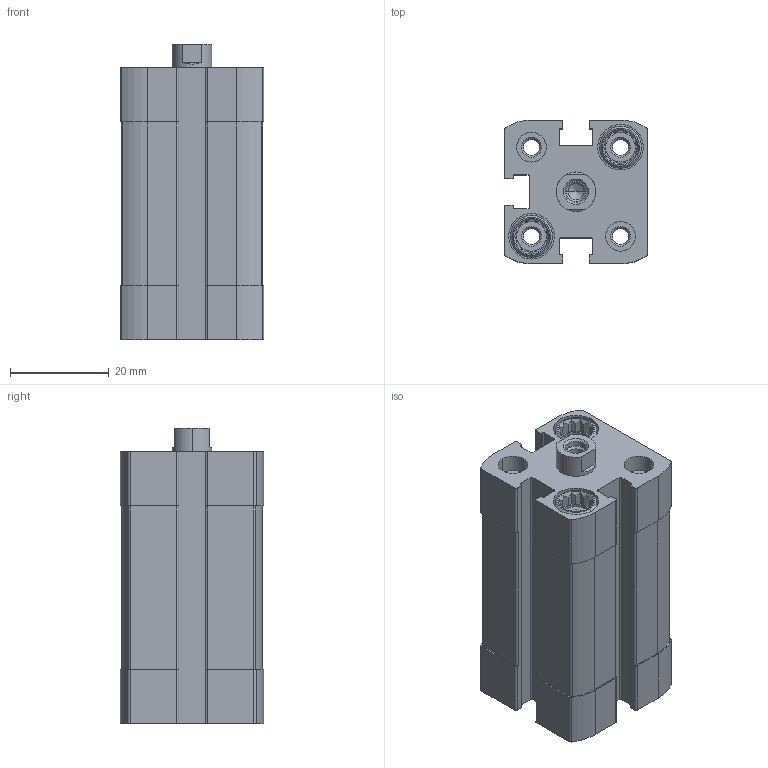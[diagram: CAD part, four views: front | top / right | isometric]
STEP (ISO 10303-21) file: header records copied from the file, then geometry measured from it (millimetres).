
FILE_DESCRIPTION (( 'STEP AP203' ), '1' );
FILE_NAME ('CCN16-20F.STEP', '2017-03-28T13:35:43', ( '' ), ( '' ), 'SwSTEP 2.0', 'SolidWorks 2016', '' );
FILE_SCHEMA (( 'CONFIG_CONTROL_DESIGN' ));
Length unit declared in the file: millimetre
Products named in the file (3): CCN-20-(Z); CCN-20_(KS); CCN16-20F
Assembly tree (2 placements, depth 2):
  CCN16-20F
    CCN-20-(Z)
    CCN-20_(KS)
Bounding box: 29 x 29 x 59.7 mm (x, y, z)
Volume: 33017.3 mm3; surface area: 17351.3 mm2
Topology: 2 solids, 2 shells, 363 faces, 940 edges, 615 vertices
Faces by surface type: plane 187, cylinder 134, cone 42
Entity records: 11521 total; most frequent: CARTESIAN_POINT 2215, DIRECTION 1896, ORIENTED_EDGE 1876, EDGE_CURVE 938, AXIS2_PLACEMENT_3D 688, VERTEX_POINT 615, LINE 520, VECTOR 520
